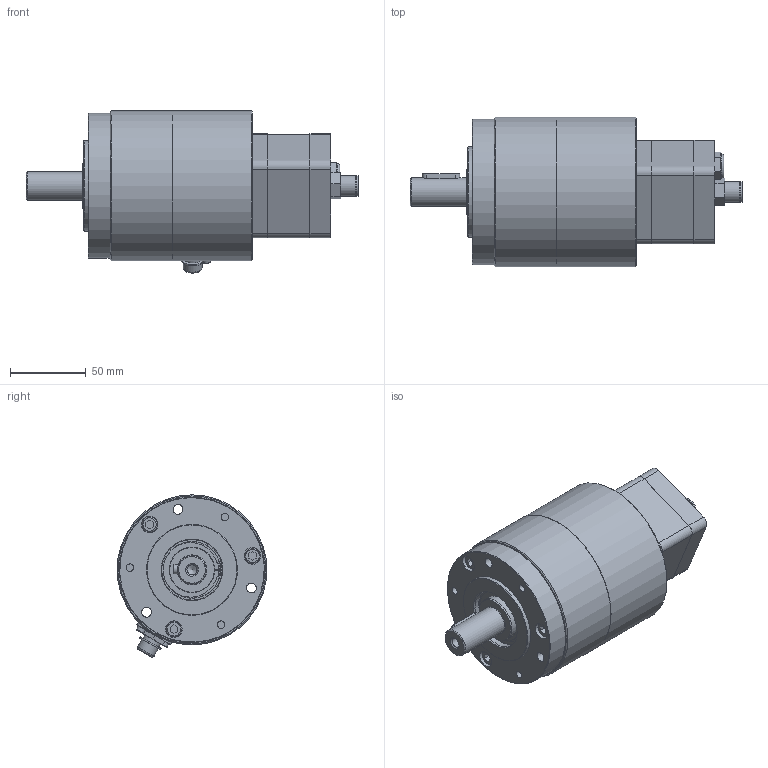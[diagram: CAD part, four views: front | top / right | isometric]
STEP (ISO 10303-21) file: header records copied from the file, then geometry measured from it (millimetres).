
FILE_DESCRIPTION(/* description */ (''),/* implementation_level */ '2;1');
FILE_NAME(/* name */ 'G:\02 CAD Dateien\02 - CAD Schrittmotoren BPS\01 - Standart Produkte\BPS 2532\Verkaufsunterlagen\STEP ab JULI 2017\500-25-314b Schrittmotor BPS-2532-S5-MX.stp',/* time_stamp */ '2019-03-08T12:46:20+01:00',/* author */ ('RSc'),/* organization */ (''),/* preprocessor_version */ 'ST-DEVELOPER v16.1',/* originating_system */ 'Autodesk Inventor 2016',/* authorisation */ '');
FILE_SCHEMA (('AUTOMOTIVE_DESIGN { 1 0 10303 214 3 1 1 }'));
Length unit declared in the file: millimetre
Products named in the file (1): Test 500-25-314b Schrittmotor BPS-2532-S5-MX
Bounding box: 219.2 x 99 x 107.11 mm (x, y, z)
Volume: 969670.8 mm3; surface area: 102889.6 mm2
Topology: 23 solids, 48 shells, 491 faces, 1118 edges, 740 vertices
Faces by surface type: plane 231, cylinder 132, torus 61, bspline 25, sphere 22, cone 20
Full cylindrical faces by diameter (mm): 1 x10, 2 x2, 3 x4, 3.3 x6, 4 x1, 4.917 x3, 5.5 x4, 6 x3, 6.5 x6, 6.65 x1, 8 x9, 8.4 x1, 8.566 x4, 9.4 x1, 10 x3, 11 x7, 12 x1, 12.5 x1, 12.6 x1, 13.6 x2, 16 x2, 19 x1, 19.2 x1, 27.9 x1, 30 x4, 35.761 x1, 37.343 x2, 37.543 x2, 40 x1, 42 x1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
Entity records: 13783 total; most frequent: CARTESIAN_POINT 2922, DIRECTION 2132, ORIENTED_EDGE 1876, EDGE_CURVE 893, AXIS2_PLACEMENT_3D 875, EDGE_LOOP 754, VERTEX_POINT 671, ADVANCED_FACE 491
